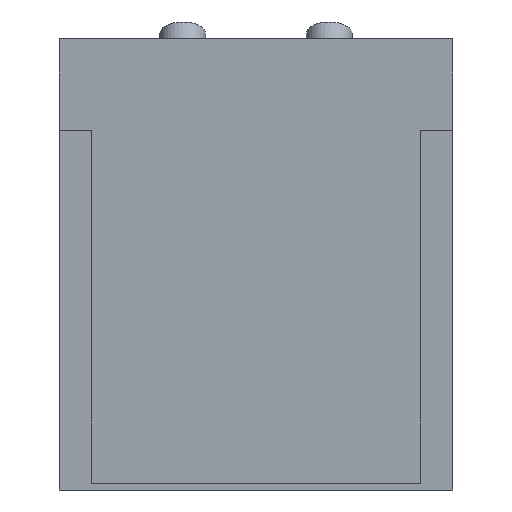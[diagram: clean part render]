
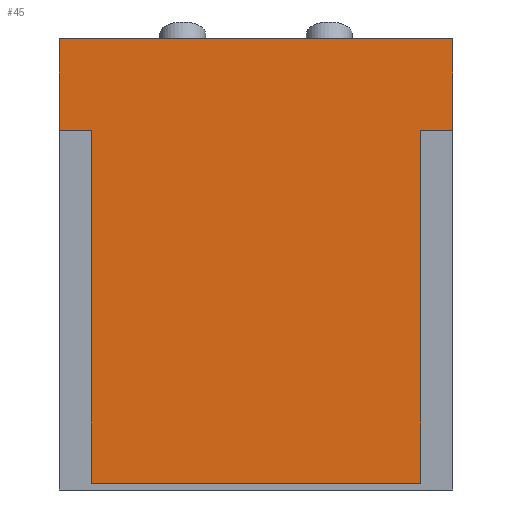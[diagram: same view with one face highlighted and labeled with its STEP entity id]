
A CAD part, front view. The second image highlights one B-rep face of the part: STEP entity #45.
In plain terms, the highlighted planar face has unit normal (0, -1, 0).
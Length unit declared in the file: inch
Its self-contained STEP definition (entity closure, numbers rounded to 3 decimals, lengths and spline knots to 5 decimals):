
#4 = LINE ( 'NONE', #5, #434 ) ;
#5 = CARTESIAN_POINT ( 'NONE',  ( 9., -9.483, 8.58492 ) ) ;
#6 = DIRECTION ( 'NONE',  ( 1., 0., 0. ) ) ;
#29 = LINE ( 'NONE', #31, #730 ) ;
#31 = CARTESIAN_POINT ( 'NONE',  ( 10.75, -9.483, 13.58492 ) ) ;
#33 = DIRECTION ( 'NONE',  ( -1., 0., 0. ) ) ;
#45 = ADVANCED_FACE ( 'NONE', ( #738 ), #735, .F. ) ;
#56 = CARTESIAN_POINT ( 'NONE',  ( 10.75, -9.483, 13.58492 ) ) ;
#59 = EDGE_CURVE ( 'NONE', #607, #791, #703, .T. ) ;
#154 = CARTESIAN_POINT ( 'NONE',  ( -10.75, -9.483, 13.58492 ) ) ;
#155 = CARTESIAN_POINT ( 'NONE',  ( 9., -9.483, 8.58492 ) ) ;
#189 = LINE ( 'NONE', #193, #687 ) ;
#193 = CARTESIAN_POINT ( 'NONE',  ( 9., -9.483, -10.6745 ) ) ;
#195 = DIRECTION ( 'NONE',  ( 0., 0., -1. ) ) ;
#201 = VERTEX_POINT ( 'NONE', #56 ) ;
#210 = AXIS2_PLACEMENT_3D ( 'NONE', #733, #727, #725 ) ;
#221 = LINE ( 'NONE', #223, #575 ) ;
#223 = CARTESIAN_POINT ( 'NONE',  ( 10.75, -9.483, 13.58492 ) ) ;
#224 = DIRECTION ( 'NONE',  ( 0., 0., -1. ) ) ;
#234 = VERTEX_POINT ( 'NONE', #513 ) ;
#243 = LINE ( 'NONE', #244, #721 ) ;
#244 = CARTESIAN_POINT ( 'NONE',  ( 10.75, -9.483, -10.6745 ) ) ;
#245 = DIRECTION ( 'NONE',  ( -1., 0., 0. ) ) ;
#269 = LINE ( 'NONE', #270, #450 ) ;
#270 = CARTESIAN_POINT ( 'NONE',  ( -9., -9.483, -10.6745 ) ) ;
#271 = DIRECTION ( 'NONE',  ( 0., 0., -1. ) ) ;
#281 = CARTESIAN_POINT ( 'NONE',  ( 10.75, -9.483, 8.58492 ) ) ;
#285 = CARTESIAN_POINT ( 'NONE',  ( 9., -9.483, -10.6745 ) ) ;
#303 = LINE ( 'NONE', #305, #547 ) ;
#305 = CARTESIAN_POINT ( 'NONE',  ( -9., -9.483, 8.58492 ) ) ;
#306 = DIRECTION ( 'NONE',  ( -1., 0., 0. ) ) ;
#309 = CARTESIAN_POINT ( 'NONE',  ( -9., -9.483, 8.58492 ) ) ;
#310 = CARTESIAN_POINT ( 'NONE',  ( -10.75, -9.483, 8.58492 ) ) ;
#318 = VERTEX_POINT ( 'NONE', #309 ) ;
#332 = EDGE_CURVE ( 'NONE', #612, #768, #4, .T. ) ;
#393 = EDGE_CURVE ( 'NONE', #201, #607, #29, .T. ) ;
#399 = ORIENTED_EDGE ( 'NONE', *, *, #332, .T. ) ;
#400 = ORIENTED_EDGE ( 'NONE', *, *, #784, .F. ) ;
#403 = ORIENTED_EDGE ( 'NONE', *, *, #393, .T. ) ;
#411 = ORIENTED_EDGE ( 'NONE', *, *, #59, .T. ) ;
#425 = VECTOR ( 'NONE', #696, 39.37008 ) ;
#434 = VECTOR ( 'NONE', #6, 39.37008 ) ;
#450 = VECTOR ( 'NONE', #271, 39.37008 ) ;
#513 = CARTESIAN_POINT ( 'NONE',  ( -9., -9.483, -10.6745 ) ) ;
#547 = VECTOR ( 'NONE', #306, 39.37008 ) ;
#552 = ORIENTED_EDGE ( 'NONE', *, *, #760, .T. ) ;
#559 = ORIENTED_EDGE ( 'NONE', *, *, #719, .F. ) ;
#564 = ORIENTED_EDGE ( 'NONE', *, *, #686, .F. ) ;
#575 = VECTOR ( 'NONE', #224, 39.37008 ) ;
#607 = VERTEX_POINT ( 'NONE', #154 ) ;
#612 = VERTEX_POINT ( 'NONE', #155 ) ;
#637 = ORIENTED_EDGE ( 'NONE', *, *, #702, .F. ) ;
#686 = EDGE_CURVE ( 'NONE', #612, #781, #189, .T. ) ;
#687 = VECTOR ( 'NONE', #195, 39.37008 ) ;
#696 = DIRECTION ( 'NONE',  ( 0., 0., -1. ) ) ;
#697 = CARTESIAN_POINT ( 'NONE',  ( -10.75, -9.483, 13.58492 ) ) ;
#702 = EDGE_CURVE ( 'NONE', #201, #768, #221, .T. ) ;
#703 = LINE ( 'NONE', #697, #425 ) ;
#719 = EDGE_CURVE ( 'NONE', #781, #234, #243, .T. ) ;
#721 = VECTOR ( 'NONE', #245, 39.37008 ) ;
#725 = DIRECTION ( 'NONE',  ( 0., 0., 1. ) ) ;
#727 = DIRECTION ( 'NONE',  ( 0., 1., 0. ) ) ;
#730 = VECTOR ( 'NONE', #33, 39.37008 ) ;
#733 = CARTESIAN_POINT ( 'NONE',  ( 10.75, -9.483, 13.58492 ) ) ;
#735 = PLANE ( 'NONE',  #210 ) ;
#738 = FACE_OUTER_BOUND ( 'NONE', #748, .T. ) ;
#748 = EDGE_LOOP ( 'NONE', ( #400, #552, #559, #564, #399, #637, #403, #411 ) ) ;
#760 = EDGE_CURVE ( 'NONE', #318, #234, #269, .T. ) ;
#768 = VERTEX_POINT ( 'NONE', #281 ) ;
#781 = VERTEX_POINT ( 'NONE', #285 ) ;
#784 = EDGE_CURVE ( 'NONE', #318, #791, #303, .T. ) ;
#791 = VERTEX_POINT ( 'NONE', #310 ) ;
